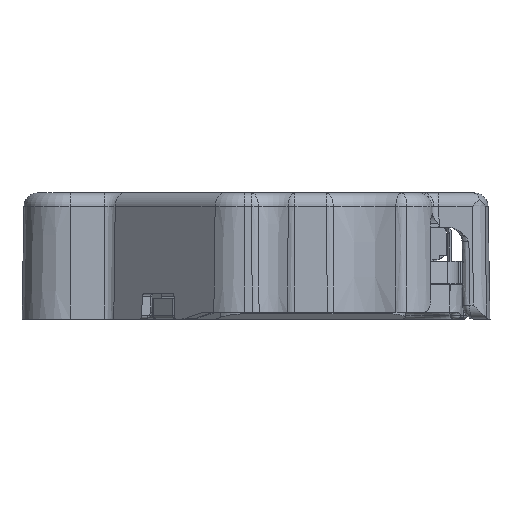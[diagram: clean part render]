
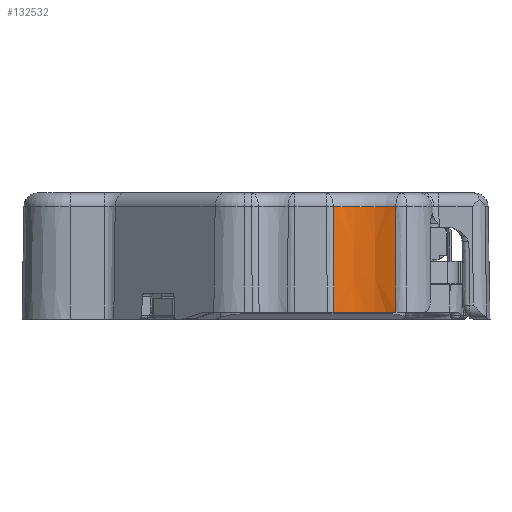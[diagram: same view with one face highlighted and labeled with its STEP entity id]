
A CAD part, front view. The second image highlights one B-rep face of the part: STEP entity #132532.
In plain terms, the highlighted conical face has half-angle 1 degrees and reference radius 5.08 mm.
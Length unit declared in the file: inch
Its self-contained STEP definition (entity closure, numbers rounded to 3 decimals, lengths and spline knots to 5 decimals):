
#860 = VERTEX_POINT ( 'NONE', #10558 ) ;
#5842 = CIRCLE ( 'NONE', #12141, 0.19407 ) ;
#7045 = EDGE_CURVE ( 'NONE', #860, #192897, #5842, .T. ) ;
#7956 = CARTESIAN_POINT ( 'NONE',  ( 0.45474, -0.14624, 0.06334 ) ) ;
#10558 = CARTESIAN_POINT ( 'NONE',  ( 0.45518, -0.14772, -0.02362 ) ) ;
#12141 = AXIS2_PLACEMENT_3D ( 'NONE', #44961, #27390, #43039 ) ;
#13769 = CARTESIAN_POINT ( 'NONE',  ( 0.45366, -0.14258, 0.27732 ) ) ;
#14511 = DIRECTION ( 'NONE',  ( 0., 0., 1. ) ) ;
#18057 = CARTESIAN_POINT ( 'NONE',  ( 0.63181, -0.13759, 0.27732 ) ) ;
#20195 = DIRECTION ( 'NONE',  ( -1., 0., 0. ) ) ;
#25577 = CARTESIAN_POINT ( 'NONE',  ( 0.45518, -0.14772, -0.02362 ) ) ;
#27390 = DIRECTION ( 'NONE',  ( 0., 0., -1. ) ) ;
#33037 = DIRECTION ( 'NONE',  ( 0., 0., 1. ) ) ;
#36741 = CARTESIAN_POINT ( 'NONE',  ( 0.63166, -0.13945, 0.177 ) ) ;
#38368 = CARTESIAN_POINT ( 'NONE',  ( 0.45379, -0.14303, 0.25062 ) ) ;
#41251 = CARTESIAN_POINT ( 'NONE',  ( 0.45366, -0.14258, 0.27732 ) ) ;
#43039 = DIRECTION ( 'NONE',  ( -1., 0., 0. ) ) ;
#43254 = VERTEX_POINT ( 'NONE', #13769 ) ;
#44961 = CARTESIAN_POINT ( 'NONE',  ( 0.54772, -0.31831, -0.02362 ) ) ;
#47714 = CARTESIAN_POINT ( 'NONE',  ( 0.54772, -0.31831, 0.27732 ) ) ;
#55911 = CONICAL_SURFACE ( 'NONE', #146783, 0.2, 0.017 ) ;
#61514 = FACE_OUTER_BOUND ( 'NONE', #95808, .T. ) ;
#68598 = CARTESIAN_POINT ( 'NONE',  ( 0.4543, -0.14475, 0.15031 ) ) ;
#76264 = ORIENTED_EDGE ( 'NONE', *, *, #7045, .T. ) ;
#77913 = ORIENTED_EDGE ( 'NONE', *, *, #190854, .T. ) ;
#90906 = CARTESIAN_POINT ( 'NONE',  ( 0.54772, -0.31831, 0.316 ) ) ;
#95808 = EDGE_LOOP ( 'NONE', ( #155433, #141098, #77913, #76264 ) ) ;
#97982 = CARTESIAN_POINT ( 'NONE',  ( 0.45386, -0.14326, 0.23727 ) ) ;
#98964 = CARTESIAN_POINT ( 'NONE',  ( 0.45373, -0.1428, 0.26397 ) ) ;
#103406 = CARTESIAN_POINT ( 'NONE',  ( 0.6313, -0.14316, -0.02362 ) ) ;
#115986 = VERTEX_POINT ( 'NONE', #128022 ) ;
#126040 = B_SPLINE_CURVE_WITH_KNOTS ( 'NONE', 3,
 ( #169146, #170097, #36741, #18057 ),
 .UNSPECIFIED., .F., .F.,
 ( 4, 4 ),
 ( 0., 0.00765 ),
 .UNSPECIFIED. ) ;
#126644 = B_SPLINE_CURVE_WITH_KNOTS ( 'NONE', 3,
 ( #41251, #98964, #38368, #97982, #68598, #7956, #25577 ),
 .UNSPECIFIED., .F., .F.,
 ( 4, 3, 4 ),
 ( 0.00098, 0.002, 0.00863 ),
 .UNSPECIFIED. ) ;
#128022 = CARTESIAN_POINT ( 'NONE',  ( 0.63181, -0.13759, 0.27732 ) ) ;
#132532 = ADVANCED_FACE ( 'NONE', ( #61514 ), #55911, .F. ) ;
#141098 = ORIENTED_EDGE ( 'NONE', *, *, #161153, .T. ) ;
#141189 = AXIS2_PLACEMENT_3D ( 'NONE', #47714, #33037, #20195 ) ;
#146783 = AXIS2_PLACEMENT_3D ( 'NONE', #90906, #14511, #147908 ) ;
#147908 = DIRECTION ( 'NONE',  ( 1., 0., 0. ) ) ;
#155433 = ORIENTED_EDGE ( 'NONE', *, *, #169587, .T. ) ;
#161153 = EDGE_CURVE ( 'NONE', #115986, #43254, #182096, .T. ) ;
#169146 = CARTESIAN_POINT ( 'NONE',  ( 0.6313, -0.14316, -0.02362 ) ) ;
#169587 = EDGE_CURVE ( 'NONE', #192897, #115986, #126040, .T. ) ;
#170097 = CARTESIAN_POINT ( 'NONE',  ( 0.63149, -0.14131, 0.07669 ) ) ;
#182096 = CIRCLE ( 'NONE', #141189, 0.19932 ) ;
#190854 = EDGE_CURVE ( 'NONE', #43254, #860, #126644, .T. ) ;
#192897 = VERTEX_POINT ( 'NONE', #103406 ) ;
